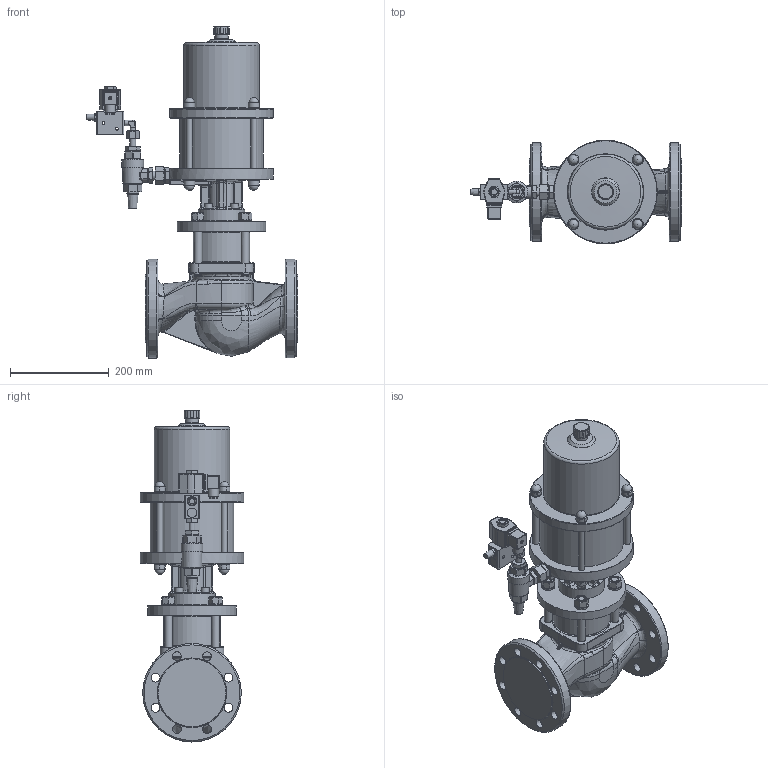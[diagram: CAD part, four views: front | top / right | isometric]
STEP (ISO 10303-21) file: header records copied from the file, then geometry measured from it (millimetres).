
FILE_DESCRIPTION((''),'2;1');
FILE_NAME('G:\CAD-Download\EPVA\16-4-EPVA\16-4-EPVA 30N-4.03.32.stp','2010-06-07T13:26:48',('da'),(''),'Autodesk Inventor 2008','Autodesk Inventor 2008','');
FILE_SCHEMA(('AUTOMOTIVE_DESIGN { 1 0 10303 214 1 1 1 1 }'));
Length unit declared in the file: millimetre
Products named in the file (1): Bauteil10
Bounding box: 429.8 x 210 x 673.55 mm (x, y, z)
Volume: 12858437.5 mm3; surface area: 753870.1 mm2
Topology: 1 solids, 4 shells, 1363 faces, 3503 edges, 2173 vertices
Faces by surface type: plane 588, bspline 309, cylinder 275, cone 128, torus 38, sphere 25
Full cylindrical faces by diameter (mm): 5.5 x1, 6.4 x1, 6.9 x1, 10 x4, 10.957 x1, 10.997 x1, 12 x9, 13 x4, 14 x1, 16 x12, 18 x9, 20.15 x2, 21.2 x8, 21.5 x1, 23 x9, 24.376 x1, 26 x1, 26.6 x1, 27 x3, 32.2 x1, 40 x1, 44 x1, 50 x1, 94 x1, 109.8 x1, 109.9 x1, 115 x1, 153 x1, 170 x1, 180 x1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
Entity records: 68802 total; most frequent: CARTESIAN_POINT 38403, ORIENTED_EDGE 6306, DIRECTION 5414, EDGE_CURVE 3153, AXIS2_PLACEMENT_3D 2121, VERTEX_POINT 2065, EDGE_LOOP 1729, FACE_OUTER_BOUND 1362
